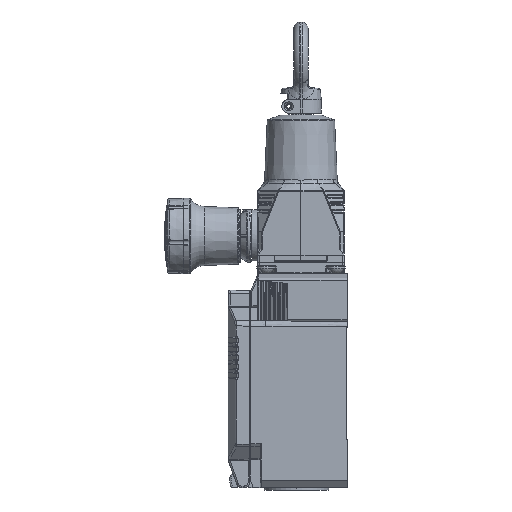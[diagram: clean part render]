
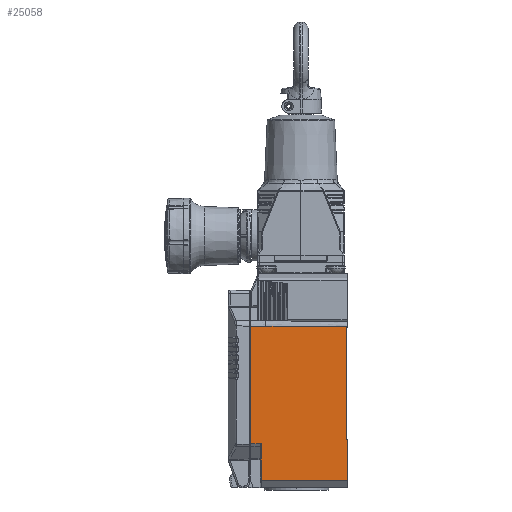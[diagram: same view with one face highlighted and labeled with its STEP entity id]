
A CAD part, left-side view. The second image highlights one B-rep face of the part: STEP entity #25058.
In plain terms, the highlighted planar face has unit normal (-1, 0, 0).
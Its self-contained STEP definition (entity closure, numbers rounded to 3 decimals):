
#80=DIRECTION('',(0.,0.,1.));
#81=VECTOR('',#80,14.096);
#82=CARTESIAN_POINT('',(-21.,-16.,-70.925));
#83=LINE('',#82,#81);
#428=CARTESIAN_POINT('',(-21.,17.217,-18.049));
#433=DIRECTION('',(0.,0.,-1.));
#434=VECTOR('',#433,40.326);
#435=CARTESIAN_POINT('',(-21.,17.217,-18.049));
#436=LINE('',#435,#434);
#806=DIRECTION('',(0.,0.,1.));
#807=VECTOR('',#806,0.047);
#808=CARTESIAN_POINT('',(-21.,-16.,-18.312));
#809=LINE('',#808,#807);
#8955=DIRECTION('',(0.,0.,1.));
#8956=VECTOR('',#8955,38.509);
#8957=CARTESIAN_POINT('',(-21.,-15.5,-56.825));
#8958=LINE('',#8957,#8956);
#8976=DIRECTION('',(0.,1.,0.009));
#8977=VECTOR('',#8976,0.5);
#8978=CARTESIAN_POINT('',(-21.,-16.,-56.829));
#8979=LINE('',#8978,#8977);
#8983=DIRECTION('',(0.,1.,-0.009));
#8984=VECTOR('',#8983,0.5);
#8985=CARTESIAN_POINT('',(-21.,-16.,-18.312));
#8986=LINE('',#8985,#8984);
#8990=DIRECTION('',(0.,1.,0.));
#8991=VECTOR('',#8990,29.6);
#8992=CARTESIAN_POINT('',(-21.,-16.,-70.925));
#8993=LINE('',#8992,#8991);
#9011=CARTESIAN_POINT('',(-21.,12.,
-17.999));
#9012=CARTESIAN_POINT('',(-21.,12.579,
-18.005));
#9013=CARTESIAN_POINT('',(-21.,13.738,
-18.016));
#9014=CARTESIAN_POINT('',(-21.,15.477,
-18.033));
#9015=CARTESIAN_POINT('',(-21.,16.637,
-18.044));
#9016=CARTESIAN_POINT('',(-21.,17.217,
-18.049));
#9021=CARTESIAN_POINT('',(-21.,-16.,
-18.265));
#9022=CARTESIAN_POINT('',(-21.,-12.877,
-18.236));
#9023=CARTESIAN_POINT('',(-21.,-6.64,
-18.176));
#9024=CARTESIAN_POINT('',(-21.,2.694,
-18.088));
#9025=CARTESIAN_POINT('',(-21.,8.9,
-18.029));
#9026=CARTESIAN_POINT('',(-21.,12.,
-17.999));
#12286=DIRECTION('',(0.,0.,-1.));
#12287=VECTOR('',#12286,12.55);
#12288=CARTESIAN_POINT('',(-21.,13.6,-58.375));
#12289=LINE('',#12288,#12287);
#12304=DIRECTION('',(0.,-1.,0.));
#12305=VECTOR('',#12304,3.617);
#12306=CARTESIAN_POINT('',(-21.,17.217,-58.375));
#12307=LINE('',#12306,#12305);
#19334=CARTESIAN_POINT('',(-21.,-16.,-70.925));
#19336=VERTEX_POINT('',#19334);
#19337=CARTESIAN_POINT('',(-21.,-16.,-56.829));
#19338=VERTEX_POINT('',#19337);
#19488=CARTESIAN_POINT('',(-21.,-16.,-18.312));
#19489=VERTEX_POINT('',#19488);
#19490=CARTESIAN_POINT('',(-21.,-16.,
-18.265));
#19491=VERTEX_POINT('',#19490);
#19493=CARTESIAN_POINT('',(-21.,13.6,-70.925));
#19495=VERTEX_POINT('',#19493);
#19586=VERTEX_POINT('',#428);
#19587=CARTESIAN_POINT('',(-21.,17.217,-58.375));
#19588=VERTEX_POINT('',#19587);
#19723=CARTESIAN_POINT('',(-21.,13.6,-58.375));
#19724=VERTEX_POINT('',#19723);
#19725=VERTEX_POINT('',#9011);
#19726=CARTESIAN_POINT('',(-21.,-15.5,-18.316));
#19727=VERTEX_POINT('',#19726);
#19728=CARTESIAN_POINT('',(-21.,-15.5,-56.825));
#19729=VERTEX_POINT('',#19728);
#25035=CARTESIAN_POINT('',(-21.,-16.,-73.425));
#25036=DIRECTION('',(-1.,0.,0.));
#25037=DIRECTION('',(0.,0.,1.));
#25038=AXIS2_PLACEMENT_3D('',#25035,#25036,#25037);
#25039=PLANE('',#25038);
#25040=ORIENTED_EDGE('',*,*,#20532,.F.);
#25042=ORIENTED_EDGE('',*,*,#25041,.F.);
#25044=ORIENTED_EDGE('',*,*,#25043,.F.);
#25045=ORIENTED_EDGE('',*,*,#20888,.F.);
#25047=ORIENTED_EDGE('',*,*,#25046,.T.);
#25048=ORIENTED_EDGE('',*,*,#25000,.F.);
#25049=ORIENTED_EDGE('',*,*,#25023,.F.);
#25050=ORIENTED_EDGE('',*,*,#20325,.F.);
#25051=ORIENTED_EDGE('',*,*,#20386,.T.);
#25053=ORIENTED_EDGE('',*,*,#25052,.F.);
#25055=ORIENTED_EDGE('',*,*,#25054,.F.);
#25056=EDGE_LOOP('',(#25040,#25042,#25044,#25045,#25047,#25048,#25049,#25050,
#25051,#25053,#25055));
#25057=FACE_OUTER_BOUND('',#25056,.F.);
#9017=B_SPLINE_CURVE_WITH_KNOTS('',3,(#9011,#9012,#9013,#9014,#9015,#9016),
.UNSPECIFIED.,.F.,.F.,(4,1,1,4),(0.,0.333,0.667,1.),
.UNSPECIFIED.);
#9027=B_SPLINE_CURVE_WITH_KNOTS('',3,(#9021,#9022,#9023,#9024,#9025,#9026),
.UNSPECIFIED.,.F.,.F.,(4,1,1,4),(0.,0.333,0.667,1.),
.UNSPECIFIED.);
#20325=EDGE_CURVE('',#19336,#19338,#83,.T.);
#20386=EDGE_CURVE('',#19336,#19495,#8993,.T.);
#20532=EDGE_CURVE('',#19586,#19588,#436,.T.);
#20888=EDGE_CURVE('',#19489,#19491,#809,.T.);
#25000=EDGE_CURVE('',#19729,#19727,#8958,.T.);
#25023=EDGE_CURVE('',#19338,#19729,#8979,.T.);
#25041=EDGE_CURVE('',#19725,#19586,#9017,.T.);
#25043=EDGE_CURVE('',#19491,#19725,#9027,.T.);
#25046=EDGE_CURVE('',#19489,#19727,#8986,.T.);
#25052=EDGE_CURVE('',#19724,#19495,#12289,.T.);
#25054=EDGE_CURVE('',#19588,#19724,#12307,.T.);
#25058=ADVANCED_FACE('',(#25057),#25039,.T.);
